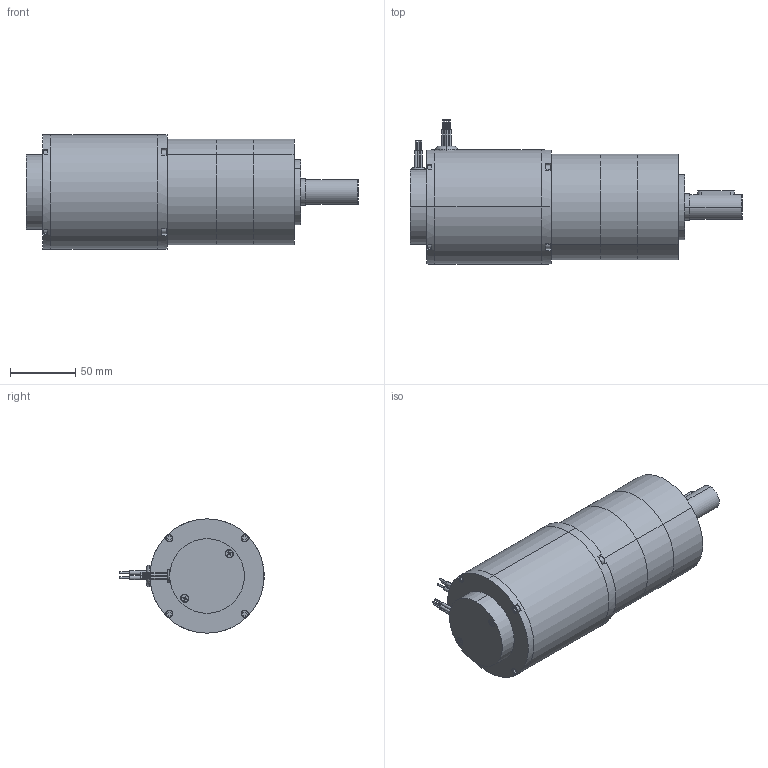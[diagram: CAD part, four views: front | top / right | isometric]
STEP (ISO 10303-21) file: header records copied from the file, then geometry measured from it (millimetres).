
FILE_DESCRIPTION (( 'STEP AP203' ), '1' );
FILE_NAME ('bl86425gp1.step', '2018-12-07T19:05:34', ( '' ), ( '' ), 'SwSTEP 2.0', 'SolidWorks 2017', '' );
FILE_SCHEMA (( 'CONFIG_CONTROL_DESIGN' ));
Length unit declared in the file: inch
Products named in the file (1): bl86425gp1
Bounding box: 254 x 110.39 x 87.38 mm (x, y, z)
Volume: 1129783.8 mm3; surface area: 151977.9 mm2
Topology: 27 solids, 27 shells, 533 faces, 1159 edges, 736 vertices
Faces by surface type: plane 240, cylinder 204, cone 81, torus 8
Entity records: 14775 total; most frequent: DIRECTION 2708, CARTESIAN_POINT 2615, ORIENTED_EDGE 2294, EDGE_CURVE 1147, AXIS2_PLACEMENT_3D 1035, VERTEX_POINT 736, VECTOR 638, LINE 638
